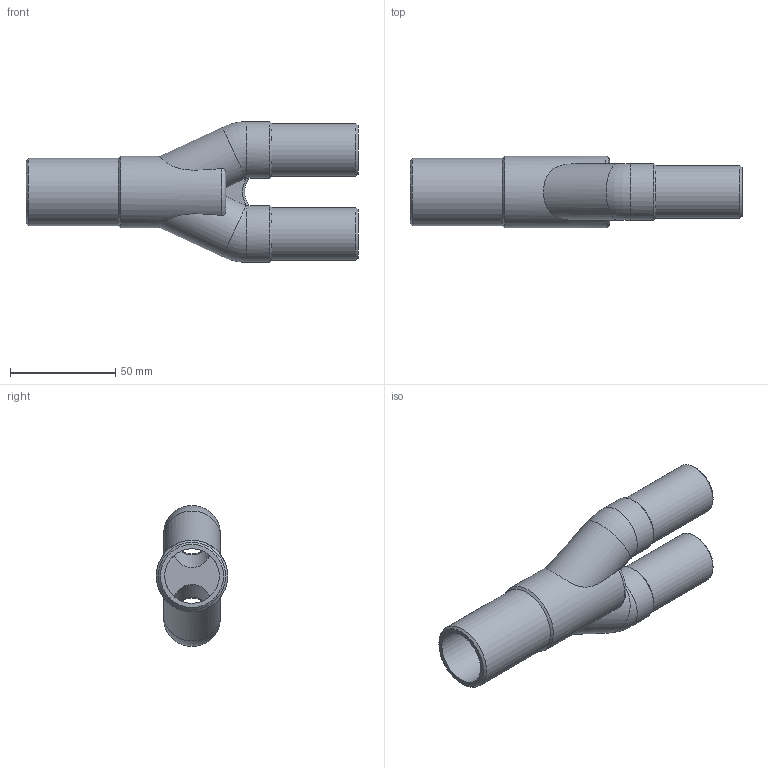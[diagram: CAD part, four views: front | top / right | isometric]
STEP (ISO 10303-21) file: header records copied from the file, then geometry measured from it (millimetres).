
FILE_DESCRIPTION(/* description */ ('Unknown'),/* implementation_level */ '2;1');
FILE_NAME(/* name */ 'YRP032025C',/* time_stamp */ '2022-02-23T11:05:11+01:00',/* author */ ('Unknown'),/* organization */ ('Unknown'),/* preprocessor_version */ 'ST-DEVELOPER v18.1',/* originating_system */ 'Solid Edge',/* authorisation */ 'Unknown');
FILE_SCHEMA (('AUTOMOTIVE_DESIGN {1 0 10303 214 3 1 1}'));
Length unit declared in the file: millimetre
Products named in the file (1): YRP032025C
Bounding box: 158 x 34 x 67 mm (x, y, z)
Volume: 66584.5 mm3; surface area: 38598.4 mm2
Topology: 1 solids, 1 shells, 40 faces, 107 edges, 68 vertices
Faces by surface type: cylinder 14, plane 12, torus 8, cone 6
Full cylindrical faces by diameter (mm): 19 x4, 25 x2, 26 x1, 27 x2, 32 x1, 34 x1
Entity records: 1194 total; most frequent: CARTESIAN_POINT 299, DIRECTION 190, ORIENTED_EDGE 154, AXIS2_PLACEMENT_3D 88, EDGE_CURVE 77, EDGE_LOOP 62, FACE_BOUND 62, VERTEX_POINT 57
